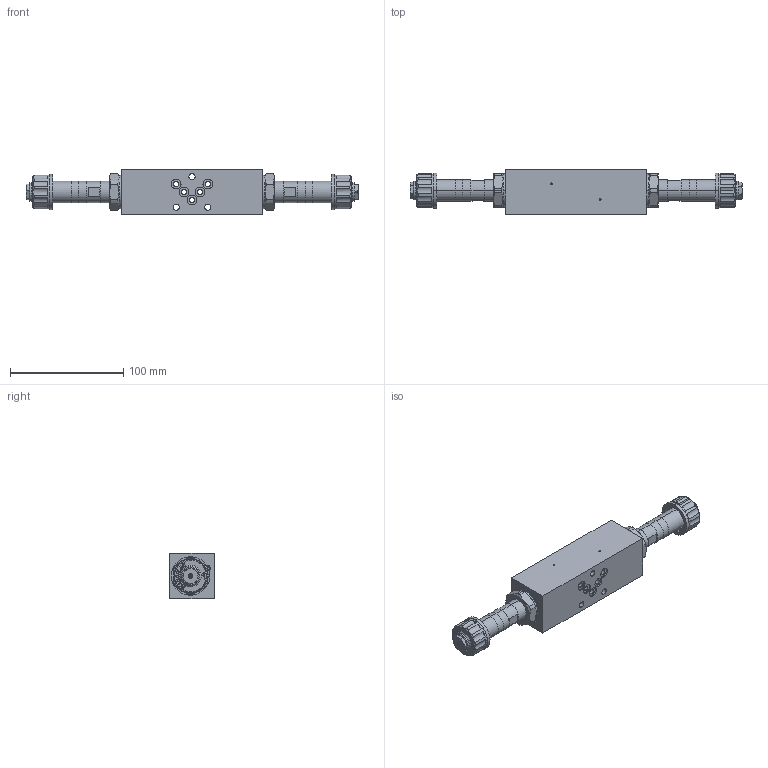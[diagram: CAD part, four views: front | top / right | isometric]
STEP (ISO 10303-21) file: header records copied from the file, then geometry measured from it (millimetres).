
FILE_DESCRIPTION (( 'STEP AP214' ), '1' );
FILE_NAME ('B.PSA04-AB.STEP', '2017-03-23T14:56:08', ( '' ), ( '' ), 'SwSTEP 2.0', 'SolidWorks 2016', '' );
FILE_SCHEMA (( 'AUTOMOTIVE_DESIGN' ));
Length unit declared in the file: millimetre
Products named in the file (1): B.PSA04-AB
Bounding box: 293.6 x 39.5 x 40 mm (x, y, z)
Volume: 258732.7 mm3; surface area: 47692.1 mm2
Topology: 3 solids, 5 shells, 710 faces, 1788 edges, 1153 vertices
Faces by surface type: plane 349, cylinder 185, cone 124, bspline 32, torus 12, sphere 8
Entity records: 31477 total; most frequent: CARTESIAN_POINT 6632, ORIENTED_EDGE 3568, DIRECTION 3483, EDGE_CURVE 1784, AXIS2_PLACEMENT_3D 1248, VERTEX_POINT 1153, VECTOR 987, LINE 987
